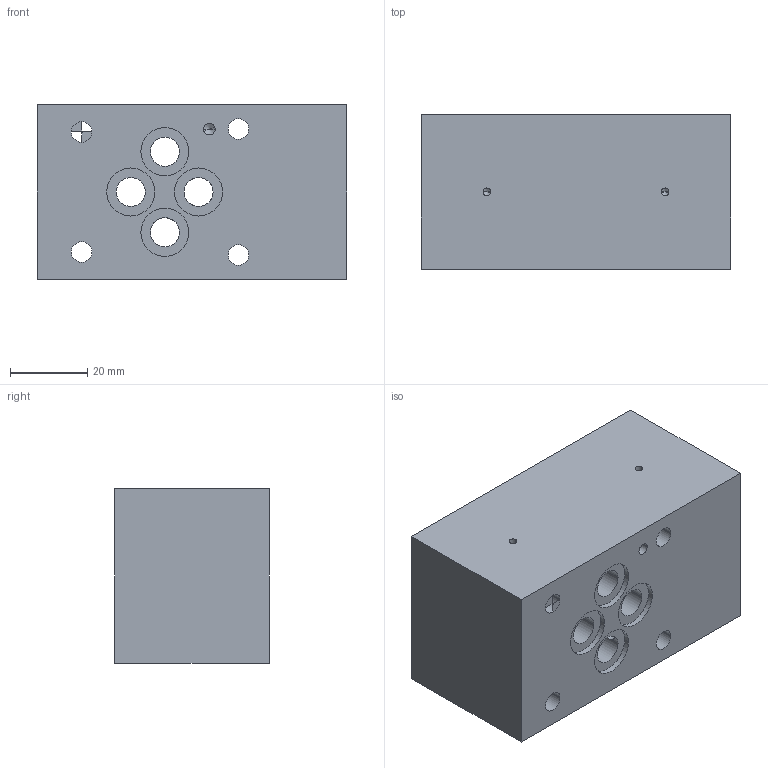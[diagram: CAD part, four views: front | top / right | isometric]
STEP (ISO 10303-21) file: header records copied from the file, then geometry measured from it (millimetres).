
FILE_DESCRIPTION((''),'2;1');
FILE_NAME('1000031128','2023-10-12T',('l.soukupova'),(''),'PRO/ENGINEER BY PARAMETRIC TECHNOLOGY CORPORATION, 2015440','PRO/ENGINEER BY PARAMETRIC TECHNOLOGY CORPORATION, 2015440','');
FILE_SCHEMA(('AUTOMOTIVE_DESIGN { 1 0 10303 214 1 1 1 1 }'));
Length unit declared in the file: millimetre
Products named in the file (1): 1000031128
Bounding box: 80 x 40 x 45 mm (x, y, z)
Volume: 119687.8 mm3; surface area: 27605.1 mm2
Topology: 1 solids, 4 shells, 96 faces, 372 edges, 331 vertices
Faces by surface type: cylinder 54, cone 28, plane 14
Entity records: 6280 total; most frequent: CARTESIAN_POINT 1542, DIRECTION 698, ORIENTED_EDGE 490, PRESENTATION_STYLE_ASSIGNMENT 433, STYLED_ITEM 404, CURVE_STYLE 401, AXIS2_PLACEMENT_3D 258, EDGE_CURVE 251
